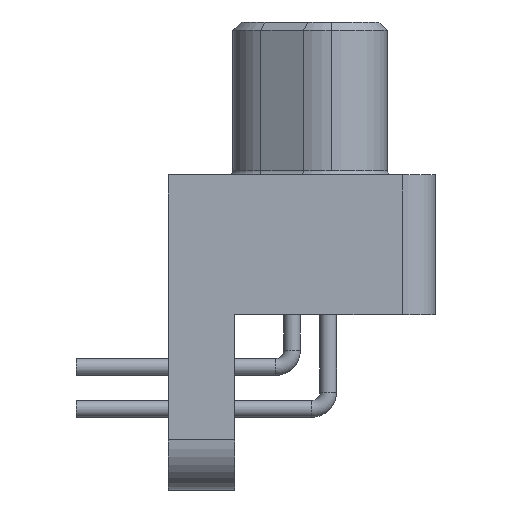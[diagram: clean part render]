
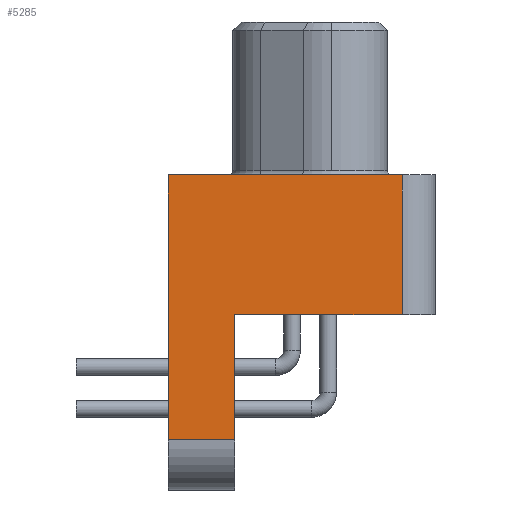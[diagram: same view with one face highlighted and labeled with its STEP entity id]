
A CAD part, left-side view. The second image highlights one B-rep face of the part: STEP entity #5285.
In plain terms, the highlighted planar face has unit normal (-1, 0, 0).
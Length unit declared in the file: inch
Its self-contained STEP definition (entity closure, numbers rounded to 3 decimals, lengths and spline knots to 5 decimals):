
#416 = VECTOR ( 'NONE', #14221, 39.37008 ) ;
#816 = LINE ( 'NONE', #1449, #13604 ) ;
#1179 = LINE ( 'NONE', #4586, #3978 ) ;
#1415 = VERTEX_POINT ( 'NONE', #5279 ) ;
#1449 = CARTESIAN_POINT ( 'NONE',  ( -0.3875, 0.09, -0.275 ) ) ;
#2141 = ORIENTED_EDGE ( 'NONE', *, *, #3722, .T. ) ;
#2316 = EDGE_CURVE ( 'NONE', #1415, #8666, #6806, .T. ) ;
#2587 = LINE ( 'NONE', #10747, #8632 ) ;
#3169 = DIRECTION ( 'NONE',  ( -1., 0., 0. ) ) ;
#3384 = DIRECTION ( 'NONE',  ( 0., 0., -1. ) ) ;
#3722 = EDGE_CURVE ( 'NONE', #1415, #8540, #816, .T. ) ;
#3978 = VECTOR ( 'NONE', #3384, 39.37008 ) ;
#4129 = VECTOR ( 'NONE', #14725, 39.37008 ) ;
#4480 = VERTEX_POINT ( 'NONE', #8209 ) ;
#4586 = CARTESIAN_POINT ( 'NONE',  ( -0.3875, -0.11, 0.042 ) ) ;
#5279 = CARTESIAN_POINT ( 'NONE',  ( -0.3875, 0.17, -0.275 ) ) ;
#5285 = ADVANCED_FACE ( 'NONE', ( #10337 ), #5549, .T. ) ;
#5475 = VECTOR ( 'NONE', #15367, 39.37008 ) ;
#5549 = PLANE ( 'NONE',  #7669 ) ;
#6765 = CARTESIAN_POINT ( 'NONE',  ( -0.3875, 0.11, 0.042 ) ) ;
#6806 = LINE ( 'NONE', #13115, #416 ) ;
#6830 = CARTESIAN_POINT ( 'NONE',  ( -0.3875, -0.11, -0.125 ) ) ;
#7669 = AXIS2_PLACEMENT_3D ( 'NONE', #6765, #3169, #11615 ) ;
#8121 = EDGE_CURVE ( 'NONE', #8540, #4480, #2587, .T. ) ;
#8143 = CARTESIAN_POINT ( 'NONE',  ( -0.3875, -0.11, -0.125 ) ) ;
#8209 = CARTESIAN_POINT ( 'NONE',  ( -0.3875, 0.09, -0.125 ) ) ;
#8540 = VERTEX_POINT ( 'NONE', #12903 ) ;
#8632 = VECTOR ( 'NONE', #15540, 39.37008 ) ;
#8639 = EDGE_LOOP ( 'NONE', ( #13118, #2141, #12892, #10327, #12365, #10118 ) ) ;
#8666 = VERTEX_POINT ( 'NONE', #9456 ) ;
#9456 = CARTESIAN_POINT ( 'NONE',  ( -0.3875, 0.17, 0.042 ) ) ;
#10118 = ORIENTED_EDGE ( 'NONE', *, *, #12815, .T. ) ;
#10327 = ORIENTED_EDGE ( 'NONE', *, *, #12512, .T. ) ;
#10337 = FACE_OUTER_BOUND ( 'NONE', #8639, .T. ) ;
#10747 = CARTESIAN_POINT ( 'NONE',  ( -0.3875, 0.09, -0.335 ) ) ;
#11411 = EDGE_CURVE ( 'NONE', #14853, #14405, #1179, .T. ) ;
#11615 = DIRECTION ( 'NONE',  ( 0., 0., 1. ) ) ;
#12287 = DIRECTION ( 'NONE',  ( 0., -1., 0. ) ) ;
#12365 = ORIENTED_EDGE ( 'NONE', *, *, #11411, .F. ) ;
#12512 = EDGE_CURVE ( 'NONE', #4480, #14405, #13956, .T. ) ;
#12548 = CARTESIAN_POINT ( 'NONE',  ( -0.3875, -0.11, 0.042 ) ) ;
#12815 = EDGE_CURVE ( 'NONE', #14853, #8666, #14137, .T. ) ;
#12892 = ORIENTED_EDGE ( 'NONE', *, *, #8121, .T. ) ;
#12903 = CARTESIAN_POINT ( 'NONE',  ( -0.3875, 0.09, -0.275 ) ) ;
#13115 = CARTESIAN_POINT ( 'NONE',  ( -0.3875, 0.17, -0.335 ) ) ;
#13118 = ORIENTED_EDGE ( 'NONE', *, *, #2316, .F. ) ;
#13499 = CARTESIAN_POINT ( 'NONE',  ( -0.3875, -0.11, 0.042 ) ) ;
#13604 = VECTOR ( 'NONE', #12287, 39.37008 ) ;
#13956 = LINE ( 'NONE', #8143, #5475 ) ;
#14137 = LINE ( 'NONE', #13499, #4129 ) ;
#14221 = DIRECTION ( 'NONE',  ( 0., 0., 1. ) ) ;
#14405 = VERTEX_POINT ( 'NONE', #6830 ) ;
#14725 = DIRECTION ( 'NONE',  ( 0., 1., 0. ) ) ;
#14853 = VERTEX_POINT ( 'NONE', #12548 ) ;
#15367 = DIRECTION ( 'NONE',  ( 0., -1., 0. ) ) ;
#15540 = DIRECTION ( 'NONE',  ( 0., 0., 1. ) ) ;
